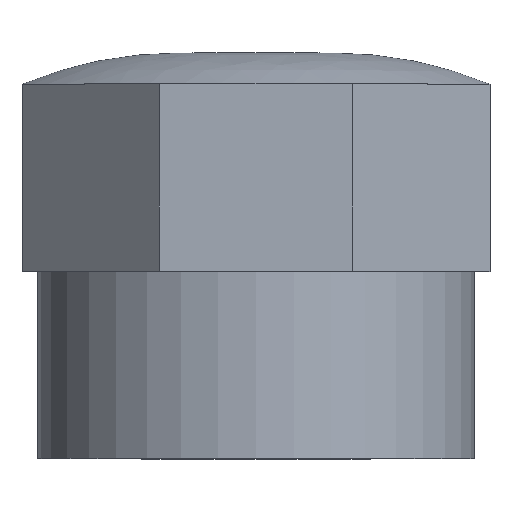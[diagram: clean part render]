
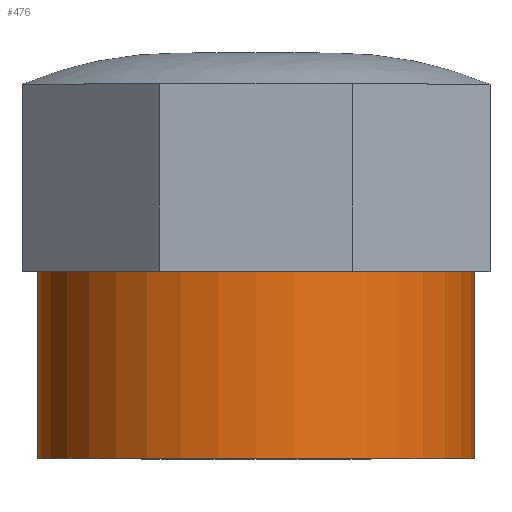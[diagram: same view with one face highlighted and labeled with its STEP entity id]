
A CAD part, top view. The second image highlights one B-rep face of the part: STEP entity #476.
In plain terms, the highlighted cylindrical face has radius 14 mm (diameter 28 mm), a full revolution.
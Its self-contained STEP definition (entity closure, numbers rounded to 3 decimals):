
#21=FACE_BOUND('',#180,.T.);
#24=CYLINDRICAL_SURFACE('',#519,14.);
#145=FACE_OUTER_BOUND('',#179,.T.);
#179=EDGE_LOOP('',(#440));
#180=EDGE_LOOP('',(#441));
#193=CIRCLE('',#511,14.);
#197=CIRCLE('',#518,14.);
#245=VERTEX_POINT('',#3785);
#249=VERTEX_POINT('',#3826);
#308=EDGE_CURVE('',#245,#245,#193,.T.);
#313=EDGE_CURVE('',#249,#249,#197,.T.);
#440=ORIENTED_EDGE('',*,*,#308,.F.);
#441=ORIENTED_EDGE('',*,*,#313,.T.);
#476=ADVANCED_FACE('',(#145,#21),#24,.T.);
#511=AXIS2_PLACEMENT_3D('',#3786,#621,#622);
#518=AXIS2_PLACEMENT_3D('',#3827,#635,#636);
#519=AXIS2_PLACEMENT_3D('',#3828,#637,#638);
#621=DIRECTION('center_axis',(0.,1.,0.));
#622=DIRECTION('ref_axis',(1.,0.,0.));
#635=DIRECTION('center_axis',(0.,1.,0.));
#636=DIRECTION('ref_axis',(1.,0.,0.));
#637=DIRECTION('center_axis',(0.,1.,0.));
#638=DIRECTION('ref_axis',(-1.,0.,0.));
#3785=CARTESIAN_POINT('',(-14.,12.,0.));
#3786=CARTESIAN_POINT('Origin',(0.,12.,0.));
#3826=CARTESIAN_POINT('',(-14.,0.,0.));
#3827=CARTESIAN_POINT('Origin',(0.,0.,0.));
#3828=CARTESIAN_POINT('Origin',(0.,6.,0.));
